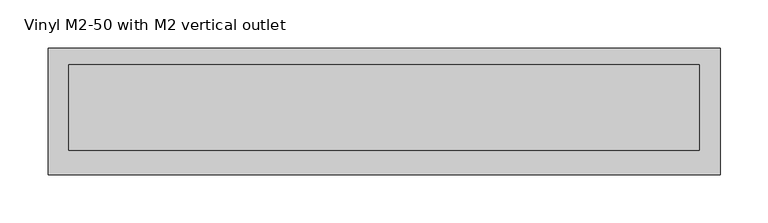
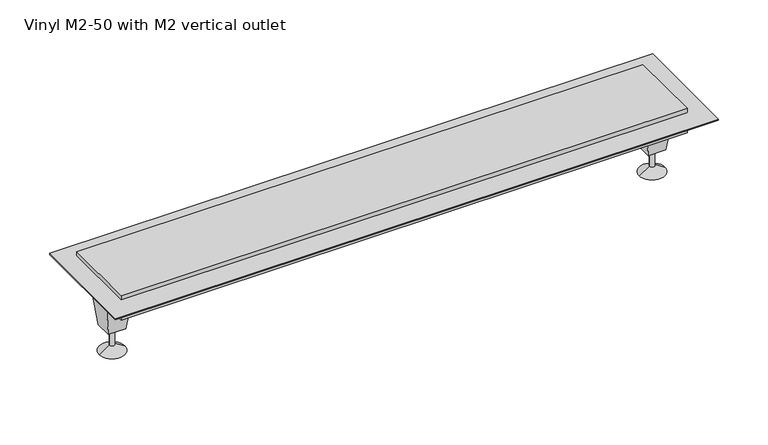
"""IFC4 building model written with IfcOpenShell, lengths in millimetres: sanitary terminal geometry, NLRS_PF_52_UN_Vinyl_Easydrain : Vinyl M2-50 with M2 vertical outlet."""

import ifcopenshell
import ifcopenshell.guid

model = None  # the IFC model being written
_history = None  # IfcOwnerHistory: only IFC2X3 demands one
_inside = {}  # id of a spatial element -> (the spatial element, [elements in it])
_under = {}  # id of a project, library or spatial element -> (it, [spatial elements below it])
_declared = {}  # id of a project -> (the project, [libraries it declares])
_typed = {}  # id of a type object -> (the type object, [elements of that type])
_made_of = {}  # id of a material, layer set ... -> (it, [elements and type objects made of it])


def new_model(schema):
    """Start an empty IFC model of exactly this schema.

    Asked for "IFC4X3", IfcOpenShell would pick the latest addendum, in which some entities
    have other attributes; the version numbers below select the first issue.
    IFC2X3 requires an IfcOwnerHistory on every rooted entity: one is made here for all.
    """
    global model, _history
    if schema == "IFC4X3":
        model = ifcopenshell.file(schema_version=(4, 3, 0, 0))
    else:
        model = ifcopenshell.file(schema=schema)
    _inside.clear()
    _under.clear()
    _declared.clear()
    _typed.clear()
    _made_of.clear()
    _history = None
    if model.schema == "IFC2X3":
        org = make("IfcOrganization", Name="unknown")
        user = make(
            "IfcPersonAndOrganization",
            ThePerson=make("IfcPerson", FamilyName="unknown"),
            TheOrganization=org,
        )
        app = make(
            "IfcApplication",
            ApplicationDeveloper=org,
            Version="unknown",
            ApplicationFullName="unknown",
            ApplicationIdentifier="unknown",
        )
        _history = make(
            "IfcOwnerHistory",
            OwningUser=user,
            OwningApplication=app,
            ChangeAction="ADDED",
            CreationDate=0,
        )
    return model


def make(cls, **values):
    """One entity of the class cls with the attributes given. An attribute that is None is left unset."""
    return model.create_entity(
        cls, **{name: value for name, value in values.items() if value is not None}
    )


def rooted(cls, **values):
    """An entity with a GlobalId (a new one), such as an element, a storey or a relation."""
    return make(cls, GlobalId=ifcopenshell.guid.new(), OwnerHistory=_history, **values)


def si_unit(unit_type, name, prefix=None):
    """IfcSIUnit, for example si_unit("LENGTHUNIT", "METRE", prefix="MILLI")."""
    return make("IfcSIUnit", UnitType=unit_type, Prefix=prefix, Name=name)


def assignment(units):
    """IfcUnitAssignment: the units of a project."""
    return None if units is None else make("IfcUnitAssignment", Units=units)


def point(xyz):
    """IfcCartesianPoint."""
    return None if xyz is None else make("IfcCartesianPoint", Coordinates=xyz)


def direction(xyz):
    """IfcDirection."""
    return None if xyz is None else make("IfcDirection", DirectionRatios=xyz)


def frame(location, z_axis=None, x_axis=None):
    """IfcAxis2Placement3D, a coordinate frame: its origin and axes. An axis left out is left unset."""
    return make(
        "IfcAxis2Placement3D",
        Location=point(location),
        Axis=direction(z_axis),
        RefDirection=direction(x_axis),
    )


def origin():
    """The frame at (0, 0, 0) with its axes left unset."""
    return frame((0.0, 0.0, 0.0))


def place(relative_to, where):
    """IfcLocalPlacement: puts the frame where relative to a parent placement (None: the world)."""
    return make(
        "IfcLocalPlacement", PlacementRelTo=relative_to, RelativePlacement=where
    )


def context(
    kind, dimensions, precision=None, world=None, true_north=None, identifier=None
):
    """IfcGeometricRepresentationContext, for example the 3D "Model" context."""
    return make(
        "IfcGeometricRepresentationContext",
        ContextIdentifier=identifier,
        ContextType=kind,
        CoordinateSpaceDimension=dimensions,
        Precision=precision,
        WorldCoordinateSystem=world,
        TrueNorth=true_north,
    )


def project(units=None, contexts=None):
    """IfcProject with its units and contexts."""
    return rooted(
        "IfcProject",
        Name="project",
        RepresentationContexts=contexts,
        UnitsInContext=assignment(units),
    )


def spatial(cls, under=None, at=None, **own):
    """A site, building, storey or space (cls), placed at a placement, below another one or the project."""
    s = rooted(cls, ObjectPlacement=at, **own)
    if under is not None:
        _under.setdefault(under.id(), (under, []))[1].append(s)
    return s


def polyline(points):
    """IfcPolyline through the points."""
    return make("IfcPolyline", Points=[point(p) for p in points])


def circle_curve(where, radius):
    """IfcCircle in the frame where."""
    return make("IfcCircle", Position=where, Radius=radius)


def outline(outer, holes=None, kind="AREA"):
    """IfcArbitraryClosedProfileDef: a profile drawn as a closed curve; with holes, ...WithVoids."""
    if holes is None:
        return make("IfcArbitraryClosedProfileDef", ProfileType=kind, OuterCurve=outer)
    return make(
        "IfcArbitraryProfileDefWithVoids",
        ProfileType=kind,
        OuterCurve=outer,
        InnerCurves=holes,
    )


def extrude(swept, where, along, depth):
    """IfcExtrudedAreaSolid: the profile swept, set in the frame where, extruded along a direction by depth."""
    return make(
        "IfcExtrudedAreaSolid",
        SweptArea=swept,
        Position=where,
        ExtrudedDirection=direction(along),
        Depth=depth,
    )


def faces_of(points, faces, orient=None, outer=None):
    """IfcFace entities. A face is a list of loops; a loop is a list of indices into points, from 0.

    orient and outer hold one flag for each loop. By default every Orientation is true, the
    first loop of a face is its IfcFaceOuterBound and the others are IfcFaceBound.
    """
    made = []
    for i, loops in enumerate(faces):
        bounds = []
        for j, loop in enumerate(loops):
            is_outer = j == 0 if outer is None else outer[i][j]
            bounds.append(
                make(
                    "IfcFaceOuterBound" if is_outer else "IfcFaceBound",
                    Bound=make("IfcPolyLoop", Polygon=[points[k] for k in loop]),
                    Orientation=True if orient is None else orient[i][j],
                )
            )
        made.append(make("IfcFace", Bounds=bounds))
    return made


def faceted_brep(points, faces, orient=None, outer=None, voids=None):
    """IfcFacetedBrep: a solid bounded by flat faces; with voids (closed shells), ...WithVoids."""
    shared = [point(p) for p in points]
    hull = make("IfcClosedShell", CfsFaces=faces_of(shared, faces, orient, outer))
    if voids is None:
        return make("IfcFacetedBrep", Outer=hull)
    return make(
        "IfcFacetedBrepWithVoids",
        Outer=hull,
        Voids=[
            make(cls, CfsFaces=faces_of(shared, fs, o, b)) for cls, fs, o, b in voids
        ],
    )


def shape(context_of_items, identifier, shape_type, items):
    """IfcShapeRepresentation: the items that make up one representation, for example the "Body"."""
    return make(
        "IfcShapeRepresentation",
        ContextOfItems=context_of_items,
        RepresentationIdentifier=identifier,
        RepresentationType=shape_type,
        Items=items,
    )


def source(mapping_origin, context_of_items, identifier, shape_type, items):
    """IfcRepresentationMap: a shape defined once, which mapped items show again and again."""
    return make(
        "IfcRepresentationMap",
        MappingOrigin=mapping_origin,
        MappedRepresentation=shape(context_of_items, identifier, shape_type, items),
    )


def transform(
    local_origin,
    x_axis=None,
    y_axis=None,
    z_axis=None,
    scale=None,
    scale2=None,
    scale3=None,
    uniform=True,
):
    """IfcCartesianTransformationOperator3D, or its non-uniform kind. x_axis, y_axis, z_axis: its Axis1, 2, 3."""
    if uniform:
        return make(
            "IfcCartesianTransformationOperator3D",
            Axis1=direction(x_axis),
            Axis2=direction(y_axis),
            LocalOrigin=point(local_origin),
            Scale=scale,
            Axis3=direction(z_axis),
        )
    return make(
        "IfcCartesianTransformationOperator3DnonUniform",
        Axis1=direction(x_axis),
        Axis2=direction(y_axis),
        LocalOrigin=point(local_origin),
        Scale=scale,
        Axis3=direction(z_axis),
        Scale2=scale2,
        Scale3=scale3,
    )


def mapped(mapping_source, mapping_target):
    """IfcMappedItem: shows the shape of a source again, moved by a transform."""
    return make(
        "IfcMappedItem", MappingSource=mapping_source, MappingTarget=mapping_target
    )


def made_of(thing, what):
    """Note that an element or type object is made of a material, layer set ...; save() writes the relation."""
    if what is not None:
        _made_of.setdefault(what.id(), (what, []))[1].append(thing)
    return thing


def element(
    cls,
    number,
    at=None,
    inside=None,
    cuts=None,
    type_object=None,
    material=None,
    context=None,
    identifier="Body",
    shape_type=None,
    held_by="IfcProductDefinitionShape",
    body=None,
    shapes=None,
    **own,
):
    """One element of the class cls, such as IfcWall. Its Tag is "e" and its number.

    at: its placement. inside: the storey or other place that contains it. cuts: it is an
    opening in that element (IfcRelVoidsElement). A single representation is given by context,
    identifier, shape_type and body (its items); several are given by shapes. held_by: the class
    of the entity that holds the representations. save() writes the other relations.
    """
    e = rooted(cls, Tag="e%d" % number, ObjectPlacement=at, **own)
    if body is not None:
        shapes = [shape(context, identifier, shape_type, body)]
    if shapes is not None:
        e.Representation = make(held_by, Representations=shapes)
    if inside is not None:
        _inside.setdefault(inside.id(), (inside, []))[1].append(e)
    if cuts is not None:
        rooted(
            "IfcRelVoidsElement", RelatingBuildingElement=cuts, RelatedOpeningElement=e
        )
    if type_object is not None:
        _typed.setdefault(type_object.id(), (type_object, []))[1].append(e)
    return made_of(e, material)


def aggregate(whole, parts):
    """IfcRelAggregates: a whole, such as a stair, and the parts it consists of."""
    return rooted("IfcRelAggregates", RelatingObject=whole, RelatedObjects=parts)


def save(model, path):
    """Write the relations noted so far, then the file.

    IfcRelAggregates (storeys below a building ...), IfcRelContainedInSpatialStructure (elements
    in a storey), IfcRelDefinesByType, IfcRelAssociatesMaterial and IfcRelDeclares: one each for
    every whole, place, type object, material and project.
    """
    for whole, parts in _under.values():
        aggregate(whole, parts)
    for where, things in _inside.values():
        rooted(
            "IfcRelContainedInSpatialStructure",
            RelatedElements=things,
            RelatingStructure=where,
        )
    for kind, things in _typed.values():
        rooted("IfcRelDefinesByType", RelatedObjects=things, RelatingType=kind)
    for what, things in _made_of.values():
        rooted("IfcRelAssociatesMaterial", RelatedObjects=things, RelatingMaterial=what)
    for by, libraries in _declared.values():
        rooted("IfcRelDeclares", RelatingContext=by, RelatedDefinitions=libraries)
    model.write(path)


def plane_surface(at):
    """IfcPlane: the flat surface through the origin of the frame at, square to its z axis."""
    return make("IfcPlane", Position=at)


def cylinder_surface(at, radius):
    """IfcCylindricalSurface: all points at the distance radius from the z axis of the frame at."""
    return make("IfcCylindricalSurface", Position=at, Radius=radius)


def revolved_surface(curve, axis_point, axis_direction):
    """IfcSurfaceOfRevolution: the curve turned about the line through axis_point along axis_direction."""
    return make(
        "IfcSurfaceOfRevolution",
        SweptCurve=make("IfcArbitraryOpenProfileDef", ProfileType="CURVE", Curve=curve),
        AxisPosition=make("IfcAxis1Placement", Location=point(axis_point), Axis=direction(axis_direction)),
    )


def advanced_brep(points, edges, surfaces, faces):
    """IfcAdvancedBrep: a solid bounded by faces that lie on surfaces and meet in shared edges.

    An edge is (start, end): straight between two places in points (the first is 0);
    or (start, end, curve); or (start, end, curve, False) where it runs against its curve.
    A face is (place in surfaces, loops), or (place, loops, False) where it looks against
    its surface's normal. A loop lists edges by number (the first is 1), with a minus sign
    where the edge is run from its end to its start. The first loop is the outer one.
    """
    corners = [point(p) for p in points]
    vertices = [make("IfcVertexPoint", VertexGeometry=c) for c in corners]
    made = []
    for start, end, *more in edges:
        made.append(
            make(
                "IfcEdgeCurve",
                EdgeStart=vertices[start],
                EdgeEnd=vertices[end],
                EdgeGeometry=more[0] if more else make("IfcPolyline", Points=[corners[start], corners[end]]),
                SameSense=more[1] if len(more) > 1 else True,
            )
        )
    hull = []
    for where, loops, *sense in faces:
        bounds = []
        for j, loop in enumerate(loops):
            ring = [make("IfcOrientedEdge", EdgeElement=made[abs(k) - 1], Orientation=k > 0) for k in loop]
            bounds.append(
                make(
                    "IfcFaceOuterBound" if j == 0 else "IfcFaceBound",
                    Bound=make("IfcEdgeLoop", EdgeList=ring),
                    Orientation=True,
                )
            )
        hull.append(make("IfcAdvancedFace", Bounds=bounds, FaceSurface=surfaces[where], SameSense=sense[0] if sense else True))
    return make("IfcAdvancedBrep", Outer=make("IfcClosedShell", CfsFaces=hull))


def vinyl_m2_50_with_m2_vertical_outlet_dc84f167(model_context):
    return source(origin(), model_context, "Body", "SolidModel", [
        advanced_brep(
        [(316.5, 0.0, -70.0), (310.5, 0.0, -70.0), (313.5, 0.0, -70.0), (316.5, 0.0, -91.5), (310.5, 0.0, -91.5), (328.5, 0.0, -99.0), (298.5, 0.0, -99.0), (313.5, 0.0, -99.0)],
        [
            (0, 1, circle_curve(frame((313.5, 0.0, -70.0), z_axis=(0.0, 0.0, 1.0), x_axis=(-1.0, 0.0, 0.0)), 3.0)),
            (1, 2),
            (2, 0),
            (1, 0, circle_curve(frame((313.5, 0.0, -70.0), z_axis=(0.0, 0.0, 1.0), x_axis=(-1.0, 0.0, 0.0)), 3.0)),
            (3, 4, circle_curve(frame((313.5, 0.0, -91.5), z_axis=(0.0, 0.0, 1.0), x_axis=(-1.0, 0.0, 0.0)), 3.0)),
            (4, 1),
            (0, 3),
            (4, 3, circle_curve(frame((313.5, 0.0, -91.5), z_axis=(0.0, 0.0, 1.0), x_axis=(-1.0, 0.0, 0.0)), 3.0)),
            (5, 6, circle_curve(frame((313.5, 0.0, -99.0), z_axis=(0.0, 0.0, 1.0), x_axis=(-1.0, 0.0, 0.0)), 15.0)),
            (6, 4),
            (3, 5),
            (6, 5, circle_curve(frame((313.5, 0.0, -99.0), z_axis=(0.0, 0.0, 1.0), x_axis=(-1.0, 0.0, 0.0)), 15.0)),
            (7, 6),
            (5, 7),
        ],
        [
            plane_surface(frame((313.5, 0.0, -70.0), z_axis=(0.0, 0.0, 1.0), x_axis=(-1.0, 0.0, 0.0))),
            cylinder_surface(frame((313.5, 0.0, -107.1782032), z_axis=(0.0, 0.0, -1.0), x_axis=(-1.0, 0.0, 0.0)), 3.0),
            revolved_surface(polyline([(310.5, 0.0, -91.5), (298.5, 0.0, -99.0)]), (313.5, 0.0, -107.1782032), (0.0, 0.0, -1.0)),
            plane_surface(frame((313.5, 0.0, -99.0), z_axis=(0.0, 0.0, -1.0), x_axis=(-1.0, 0.0, 0.0))),
        ],
        [
            (0, [[1, 2, 3]]),
            (0, [[4, -3, -2]]),
            (1, [[5, 6, -1, 7]]),
            (1, [[8, -7, -4, -6]]),
            (2, [[9, 10, -5, 11]]),
            (2, [[12, -11, -8, -10]]),
            (3, [[13, -9, 14]]),
            (3, [[-14, -12, -13]]),
        ],
    ),
        faceted_brep([(303.5, 10.0, -70.0), (323.5, 10.0, -70.0), (323.5, -10.0, -70.0), (303.5, -10.0, -70.0), (298.5, 15.0, -30.0), (298.5, -15.0, -30.0), (328.5, -15.0, -30.0), (328.5, 15.0, -30.0)], [[[0, 1, 2, 3]], [[4, 5, 6, 7]], [[5, 4, 0, 3]], [[6, 5, 3, 2]], [[7, 6, 2, 1]], [[4, 7, 1, 0]]]),
        advanced_brep(
        [(-310.5, 0.0, -70.0), (-316.5, 0.0, -70.0), (-313.5, 0.0, -70.0), (-310.5, 0.0, -91.5), (-316.5, 0.0, -91.5), (-298.5, 0.0, -99.0), (-328.5, 0.0, -99.0), (-313.5, 0.0, -99.0)],
        [
            (0, 1, circle_curve(frame((-313.5, 0.0, -70.0), z_axis=(0.0, 0.0, 1.0), x_axis=(-1.0, 0.0, 0.0)), 3.0)),
            (1, 2),
            (2, 0),
            (1, 0, circle_curve(frame((-313.5, 0.0, -70.0), z_axis=(0.0, 0.0, 1.0), x_axis=(-1.0, 0.0, 0.0)), 3.0)),
            (3, 4, circle_curve(frame((-313.5, 0.0, -91.5), z_axis=(0.0, 0.0, 1.0), x_axis=(-1.0, 0.0, 0.0)), 3.0)),
            (4, 1),
            (0, 3),
            (4, 3, circle_curve(frame((-313.5, 0.0, -91.5), z_axis=(0.0, 0.0, 1.0), x_axis=(-1.0, 0.0, 0.0)), 3.0)),
            (5, 6, circle_curve(frame((-313.5, 0.0, -99.0), z_axis=(0.0, 0.0, 1.0), x_axis=(-1.0, 0.0, 0.0)), 15.0)),
            (6, 4),
            (3, 5),
            (6, 5, circle_curve(frame((-313.5, 0.0, -99.0), z_axis=(0.0, 0.0, 1.0), x_axis=(-1.0, 0.0, 0.0)), 15.0)),
            (7, 6),
            (5, 7),
        ],
        [
            plane_surface(frame((-313.5, 0.0, -70.0), z_axis=(0.0, 0.0, 1.0), x_axis=(-1.0, 0.0, 0.0))),
            cylinder_surface(frame((-313.5, 0.0, -107.1782032), z_axis=(0.0, 0.0, -1.0), x_axis=(-1.0, 0.0, 0.0)), 3.0),
            revolved_surface(polyline([(-316.5, 0.0, -91.5), (-328.5, 0.0, -99.0)]), (-313.5, 0.0, -107.1782032), (0.0, 0.0, -1.0)),
            plane_surface(frame((-313.5, 0.0, -99.0), z_axis=(0.0, 0.0, -1.0), x_axis=(-1.0, 0.0, 0.0))),
        ],
        [
            (0, [[1, 2, 3]]),
            (0, [[4, -3, -2]]),
            (1, [[5, 6, -1, 7]]),
            (1, [[8, -7, -4, -6]]),
            (2, [[9, 10, -5, 11]]),
            (2, [[12, -11, -8, -10]]),
            (3, [[13, -9, 14]]),
            (3, [[-14, -12, -13]]),
        ],
    ),
        faceted_brep([(-323.5, 10.0, -70.0), (-303.5, 10.0, -70.0), (-303.5, -10.0, -70.0), (-323.5, -10.0, -70.0), (-328.5, 15.0, -30.0), (-328.5, -15.0, -30.0), (-298.5, -15.0, -30.0), (-298.5, 15.0, -30.0)], [[[0, 1, 2, 3]], [[4, 5, 6, 7]], [[5, 4, 0, 3]], [[6, 5, 3, 2]], [[7, 6, 2, 1]], [[4, 7, 1, 0]]]),
        extrude(outline(polyline([(328.5, 44.5), (328.5, -44.5), (-328.5, -44.5), (-328.5, 44.5), (328.5, 44.5)])), frame((0.0, 0.0, -5.0), z_axis=(0.0, 0.0, 1.0), x_axis=(1.0, 0.0, 0.0)), (0.0, 0.0, 1.0), 5.0),
        extrude(outline(polyline([(350.0, 62.0), (350.0, -70.0), (-350.0, -70.0), (-350.0, 62.0), (350.0, 62.0)])), frame((0.0, 0.0, -6.5), z_axis=(0.0, 0.0, 1.0), x_axis=(1.0, 0.0, 0.0)), (0.0, 0.0, 1.0), 1.5),
        extrude(outline(polyline([(328.5, 44.5), (328.5, -44.5), (-328.5, -44.5), (-328.5, 44.5), (328.5, 44.5)])), frame((0.0, 0.0, -30.0), z_axis=(0.0, 0.0, 1.0), x_axis=(1.0, 0.0, 0.0)), (0.0, 0.0, 1.0), 25.0),
    ])


if __name__ == "__main__":
    model = new_model("IFC4")
    model_context = context("Model", 3, world=origin())
    ifc_project = project(units=[si_unit("LENGTHUNIT", "METRE", prefix="MILLI")], contexts=[model_context])
    site = spatial("IfcSite", under=ifc_project)
    building = spatial("IfcBuilding", under=site)
    placement = place(None, origin())
    vinyl_m2_50_with_m2_vertical_outlet_shape = vinyl_m2_50_with_m2_vertical_outlet_dc84f167(model_context)
    element("IfcSanitaryTerminal", 1, ObjectType="NLRS_PF_52_UN_Vinyl_Easydrain : Vinyl M2-50 with M2 vertical outlet", at=placement, inside=building, context=model_context, shape_type="MappedRepresentation", body=[
        mapped(vinyl_m2_50_with_m2_vertical_outlet_shape, transform((0.0, 0.0, 0.0), x_axis=(1.0, 0.0, 0.0), y_axis=(0.0, 1.0, 0.0), z_axis=(0.0, 0.0, 1.0))),
    ])
    save(model, "model.ifc")
